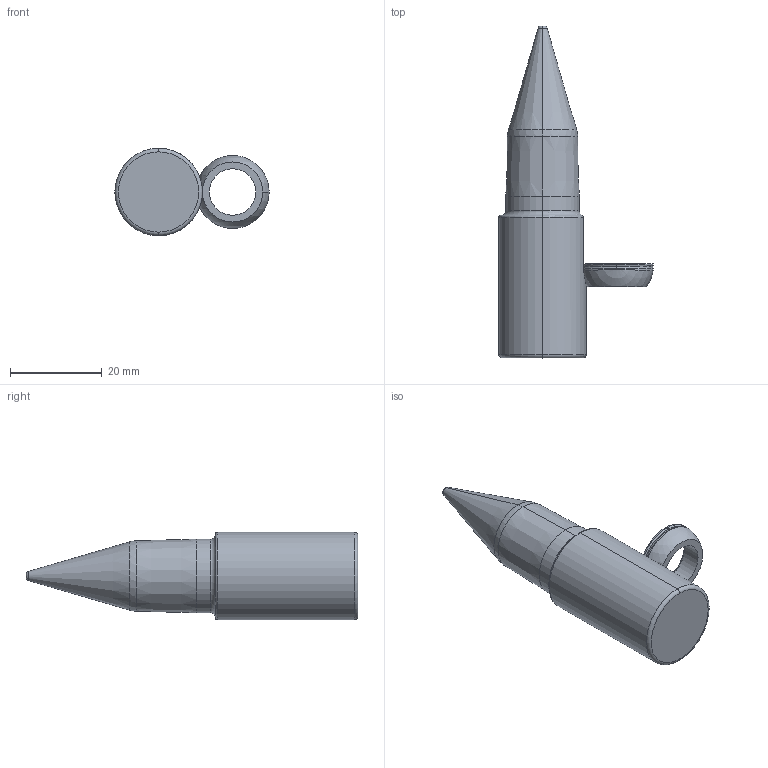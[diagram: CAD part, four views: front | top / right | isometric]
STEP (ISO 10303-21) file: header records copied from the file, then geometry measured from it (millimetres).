
FILE_DESCRIPTION (( 'STEP AP214' ), '1' );
FILE_NAME ('PA-T-16mm-3.2mm-13mm-3-A-F1.STEP', '2019-05-08T18:07:03', ( '' ), ( '' ), 'SwSTEP 2.0', 'SolidWorks 2017', '' );
FILE_SCHEMA (( 'AUTOMOTIVE_DESIGN' ));
Length unit declared in the file: inch
Products named in the file (3): SLPilot-PA-T-M_PA-T-16-3.2-13-3-A-F1; PA-T-16mm-3.2mm-13mm-3-A-F1; SLRadiusWasher_RadiusWasher-M
Assembly tree (2 placements, depth 2):
  PA-T-16mm-3.2mm-13mm-3-A-F1
    SLRadiusWasher_RadiusWasher-M
    SLPilot-PA-T-M_PA-T-16-3.2-13-3-A-F1
Bounding box: 33.54 x 72.18 x 19 mm (x, y, z)
Volume: 14265.7 mm3; surface area: 4266.7 mm2
Topology: 2 solids, 2 shells, 41 faces, 89 edges, 52 vertices
Faces by surface type: torus 15, cylinder 11, cone 6, plane 5, sphere 4
Entity records: 1316 total; most frequent: CARTESIAN_POINT 252, DIRECTION 242, ORIENTED_EDGE 178, AXIS2_PLACEMENT_3D 112, EDGE_CURVE 89, CIRCLE 66, VERTEX_POINT 52, EDGE_LOOP 43
